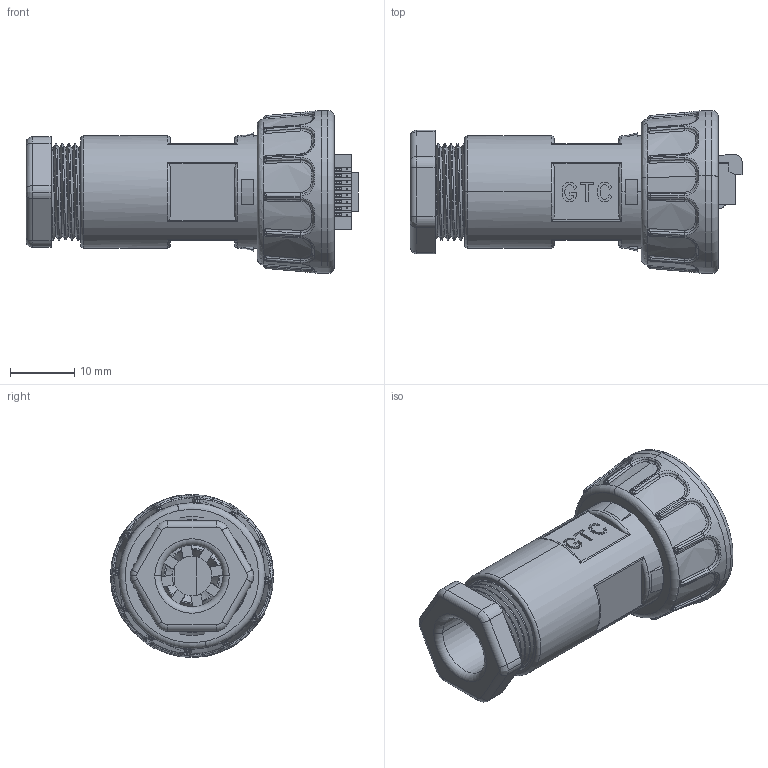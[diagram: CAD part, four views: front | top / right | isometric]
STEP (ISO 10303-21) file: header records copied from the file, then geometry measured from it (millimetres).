
FILE_DESCRIPTION (( 'STEP AP203' ), '1' );
FILE_NAME ('GT125360-00.STEP', '2013-07-18T01:11:18', ( 'Ray.Chiu' ), ( '' ), 'SwSTEP 2.0', 'SolidWorks 2012', '' );
FILE_SCHEMA (( 'CONFIG_CONTROL_DESIGN' ));
Products named in the file (8): GT125360-00; 65152-0003X_01; 60152-XB104_01; 60152-X8110; 83001-M0104; 67225-00120; 66125-30020; 60125-X8101
Assembly tree (7 placements, depth 2):
  GT125360-00
    60125-X8101
    66125-30020
    67225-00120
    83001-M0104
    60152-X8110
    60152-XB104_01
    65152-0003X_01
Bounding box: 51.7 x 25.39 x 25.39 mm (x, y, z)
Volume: 9751 mm3; surface area: 11920.2 mm2
Topology: 7 solids, 7 shells, 1024 faces, 2811 edges, 1807 vertices
Faces by surface type: plane 555, bspline 197, cylinder 190, cone 45, torus 27, sphere 10
Entity records: 41711 total; most frequent: CARTESIAN_POINT 16800, ORIENTED_EDGE 5602, DIRECTION 4337, EDGE_CURVE 2801, VERTEX_POINT 1807, LINE 1669, VECTOR 1669, AXIS2_PLACEMENT_3D 1334
